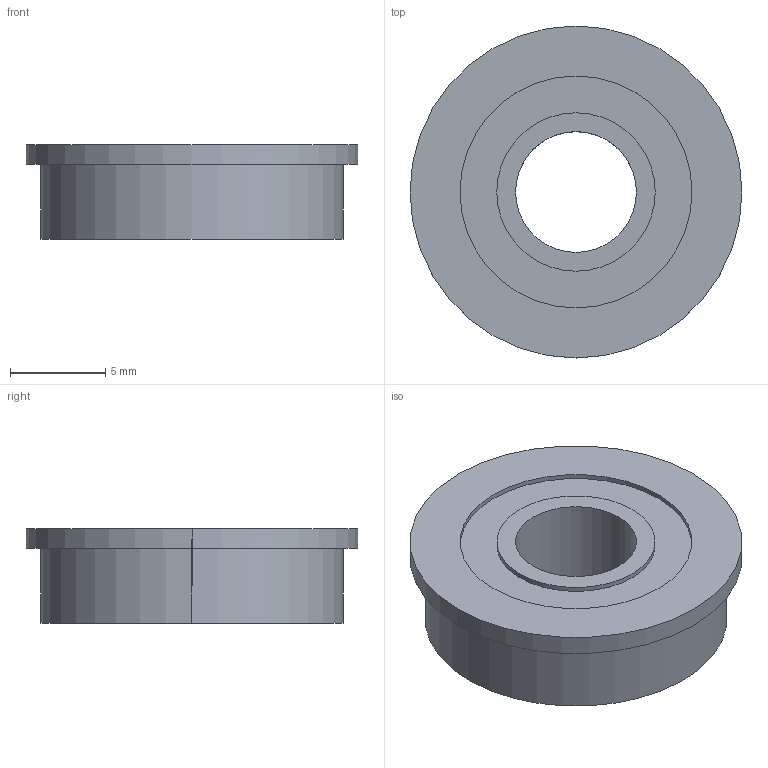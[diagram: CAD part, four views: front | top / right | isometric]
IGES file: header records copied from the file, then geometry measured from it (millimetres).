
Global section: file name: C:\Documents and Settings\Administrator\My Documents\FIRST Project\bearingflanged0250.igs; native system: AutoDesk Inventor R2.0 ; preprocessor: AutoDesk Inventor Iges Exporter R2.0; author: No Author specified; organization: No Organization specified; date: 20011206.210220; units: inch
Bounding box: 17.45 x 17.45 x 4.98 mm (x, y, z)
Surface area: 800.5 mm2 (no closed solid volume)
Topology: 0 solids, 0 shells, 21 faces, 84 edges, 84 vertices
Faces by surface type: revolution 14, bspline 7
